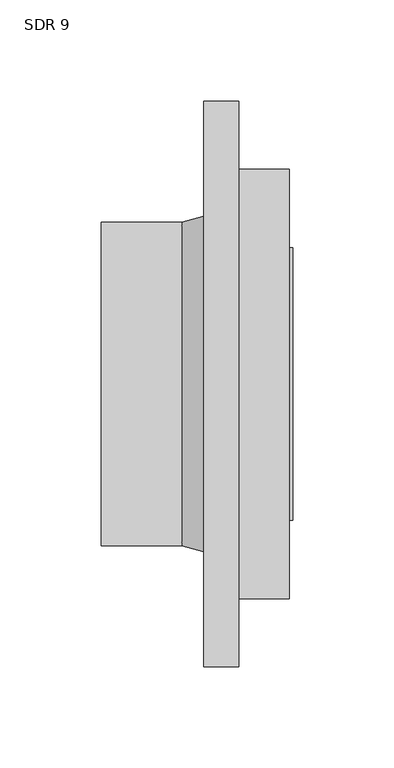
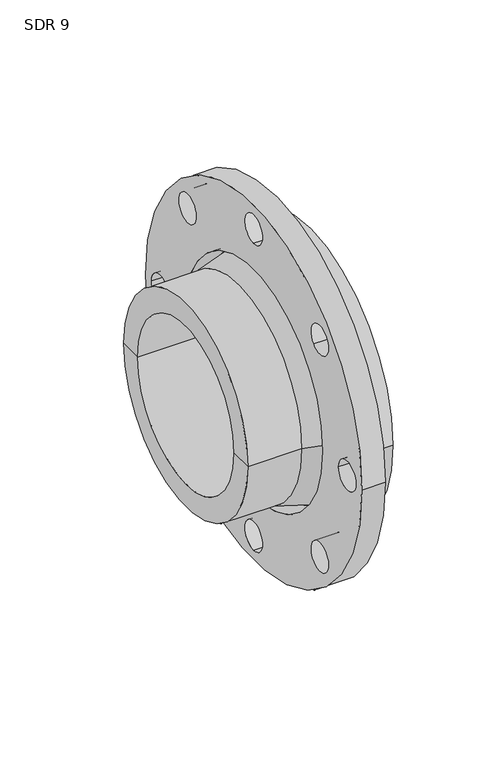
"""IFC4 building model written with IfcOpenShell, lengths in millimetres: valve geometry, Aquatherm - Flange Adapter Butt-Weld : SDR 9."""

from ifc_helpers import new_model, si_unit, point, frame, frame_2d, origin, origin_2d, place, context, project, spatial, polyline, circle_curve, trimmed, segment, composite_curve, outline, extrude, source, transform, mapped, element, save
from ifc_brep_helpers import plane_surface, cylinder_surface, revolved_surface, advanced_brep


def sdr_9_2074904a(model_context):
    return source(origin(), model_context, "Body", "SolidModel", [
        extrude(outline(composite_curve([segment(trimmed(circle_curve(origin_2d(), 139.7), [point((139.7, 0.0))], [point((-139.7, 0.0))], False, "CARTESIAN"), True, "CONTINUOUS"), segment(trimmed(circle_curve(origin_2d(), 139.7), [point((-139.7, 0.0))], [point((139.7, 0.0))], False, "CARTESIAN"), True, "CONTINUOUS")], self_intersect=False), holes=[composite_curve([segment(trimmed(circle_curve(origin_2d(), 88.9), [point((88.9, 0.0))], [point((-88.9, 0.0))], True, "CARTESIAN"), True, "CONTINUOUS"), segment(trimmed(circle_curve(origin_2d(), 88.9), [point((-88.9, 0.0))], [point((88.9, 0.0))], True, "CARTESIAN"), True, "CONTINUOUS")], self_intersect=False), composite_curve([segment(trimmed(circle_curve(frame_2d((-120.65, 0.0)), 11.176), [point((-109.474, 0.0))], [point((-131.826, 0.0))], True, "CARTESIAN"), True, "CONTINUOUS"), segment(trimmed(circle_curve(frame_2d((-120.65, 0.0)), 11.176), [point((-131.826, 0.0))], [point((-109.474, 0.0))], True, "CARTESIAN"), True, "CONTINUOUS")], self_intersect=False), composite_curve([segment(trimmed(circle_curve(frame_2d((-85.3124332, -85.3124332)), 11.176), [point((-77.4098078, -77.4098078))], [point((-93.2150585, -93.2150585))], True, "CARTESIAN"), True, "CONTINUOUS"), segment(trimmed(circle_curve(frame_2d((-85.3124332, -85.3124332)), 11.176), [point((-93.2150585, -93.2150585))], [point((-77.4098078, -77.4098078))], True, "CARTESIAN"), True, "CONTINUOUS")], self_intersect=False), composite_curve([segment(trimmed(circle_curve(frame_2d((-85.3124332, 85.3124332)), 11.176), [point((-77.4098078, 77.4098078))], [point((-93.2150585, 93.2150585))], True, "CARTESIAN"), True, "CONTINUOUS"), segment(trimmed(circle_curve(frame_2d((-85.3124332, 85.3124332)), 11.176), [point((-93.2150585, 93.2150585))], [point((-77.4098078, 77.4098078))], True, "CARTESIAN"), True, "CONTINUOUS")], self_intersect=False), composite_curve([segment(trimmed(circle_curve(frame_2d((0.0, 120.65)), 11.176), [point((0.0, 109.474))], [point((0.0, 131.826))], True, "CARTESIAN"), True, "CONTINUOUS"), segment(trimmed(circle_curve(frame_2d((0.0, 120.65)), 11.176), [point((0.0, 131.826))], [point((0.0, 109.474))], True, "CARTESIAN"), True, "CONTINUOUS")], self_intersect=False), composite_curve([segment(trimmed(circle_curve(frame_2d((85.3124332, 85.3124332)), 11.176), [point((77.4098078, 77.4098078))], [point((93.2150585, 93.2150585))], True, "CARTESIAN"), True, "CONTINUOUS"), segment(trimmed(circle_curve(frame_2d((85.3124332, 85.3124332)), 11.176), [point((93.2150585, 93.2150585))], [point((77.4098078, 77.4098078))], True, "CARTESIAN"), True, "CONTINUOUS")], self_intersect=False), composite_curve([segment(trimmed(circle_curve(frame_2d((120.65, 0.0)), 11.176), [point((109.474, 0.0))], [point((131.826, 0.0))], True, "CARTESIAN"), True, "CONTINUOUS"), segment(trimmed(circle_curve(frame_2d((120.65, 0.0)), 11.176), [point((131.826, 0.0))], [point((109.474, 0.0))], True, "CARTESIAN"), True, "CONTINUOUS")], self_intersect=False), composite_curve([segment(trimmed(circle_curve(frame_2d((85.3124332, -85.3124332)), 11.176), [point((77.4098078, -77.4098078))], [point((93.2150585, -93.2150585))], True, "CARTESIAN"), True, "CONTINUOUS"), segment(trimmed(circle_curve(frame_2d((85.3124332, -85.3124332)), 11.176), [point((93.2150585, -93.2150585))], [point((77.4098078, -77.4098078))], True, "CARTESIAN"), True, "CONTINUOUS")], self_intersect=False), composite_curve([segment(trimmed(circle_curve(frame_2d((0.0, -120.65)), 11.176), [point((0.0, -109.474))], [point((0.0, -131.826))], True, "CARTESIAN"), True, "CONTINUOUS"), segment(trimmed(circle_curve(frame_2d((0.0, -120.65)), 11.176), [point((0.0, -131.826))], [point((0.0, -109.474))], True, "CARTESIAN"), True, "CONTINUOUS")], self_intersect=False)]), frame((-17.526, 0.0, 0.0), z_axis=(1.0, 0.0, 0.0), x_axis=(0.0, 1.0, 0.0)), (0.0, 0.0, 1.0), 17.526),
        advanced_brep(
        [(24.892, -106.045, 0.0), (0.0, -106.045, 0.0), (0.0, 106.045, 0.0), (24.892, 106.045, 0.0), (26.4795, -62.23, 0.0), (26.4795, -67.31, 0.0), (26.4795, 67.31, 0.0), (26.4795, 62.23, 0.0), (-68.072, -62.23, 0.0), (-68.072, 62.23, 0.0), (-68.072, -80.01, 0.0), (-68.072, 80.01, 0.0), (-28.194, -80.01, 0.0), (-28.194, 80.01, 0.0), (0.0, -87.503, 0.0), (0.0, 87.503, 0.0), (24.892, -67.31, 0.0), (24.892, 67.31, 0.0)],
        [
            (0, 1),
            (1, 2, circle_curve(frame((0.0, 0.0, 0.0), z_axis=(1.0, 0.0, 0.0), x_axis=(0.0, 1.0, 0.0)), 106.045)),
            (2, 3),
            (3, 0, circle_curve(frame((24.892, 0.0, 0.0), z_axis=(-1.0, 0.0, 0.0), x_axis=(0.0, 1.0, 0.0)), 106.045)),
            (2, 1, circle_curve(frame((0.0, 0.0, 0.0), z_axis=(1.0, 0.0, 0.0), x_axis=(0.0, 1.0, 0.0)), 106.045)),
            (0, 3, circle_curve(frame((24.892, 0.0, 0.0), z_axis=(-1.0, 0.0, 0.0), x_axis=(0.0, 1.0, 0.0)), 106.045)),
            (4, 5),
            (5, 6, circle_curve(frame((26.4795, 0.0, 0.0), z_axis=(1.0, 0.0, 0.0), x_axis=(0.0, 1.0, 0.0)), 67.31)),
            (6, 7),
            (7, 4, circle_curve(frame((26.4795, 0.0, 0.0), z_axis=(-1.0, 0.0, 0.0), x_axis=(0.0, 1.0, 0.0)), 62.23)),
            (6, 5, circle_curve(frame((26.4795, 0.0, 0.0), z_axis=(1.0, 0.0, 0.0), x_axis=(0.0, 1.0, 0.0)), 67.31)),
            (4, 7, circle_curve(frame((26.4795, 0.0, 0.0), z_axis=(-1.0, 0.0, 0.0), x_axis=(0.0, 1.0, 0.0)), 62.23)),
            (8, 4),
            (7, 9),
            (9, 8, circle_curve(frame((-68.072, 0.0, 0.0), z_axis=(-1.0, 0.0, 0.0), x_axis=(0.0, 1.0, 0.0)), 62.23)),
            (8, 9, circle_curve(frame((-68.072, 0.0, 0.0), z_axis=(-1.0, 0.0, 0.0), x_axis=(0.0, 1.0, 0.0)), 62.23)),
            (10, 8),
            (9, 11),
            (11, 10, circle_curve(frame((-68.072, 0.0, 0.0), z_axis=(-1.0, 0.0, 0.0), x_axis=(0.0, 1.0, 0.0)), 80.01)),
            (10, 11, circle_curve(frame((-68.072, 0.0, 0.0), z_axis=(-1.0, 0.0, 0.0), x_axis=(0.0, 1.0, 0.0)), 80.01)),
            (12, 10),
            (11, 13),
            (13, 12, circle_curve(frame((-28.194, 0.0, 0.0), z_axis=(-1.0, 0.0, 0.0), x_axis=(0.0, 1.0, 0.0)), 80.01)),
            (12, 13, circle_curve(frame((-28.194, 0.0, 0.0), z_axis=(-1.0, 0.0, 0.0), x_axis=(0.0, 1.0, 0.0)), 80.01)),
            (1, 14),
            (14, 15, circle_curve(frame((0.0, 0.0, 0.0), z_axis=(1.0, 0.0, 0.0), x_axis=(0.0, 1.0, 0.0)), 87.503)),
            (15, 2),
            (15, 14, circle_curve(frame((0.0, 0.0, 0.0), z_axis=(1.0, 0.0, 0.0), x_axis=(0.0, 1.0, 0.0)), 87.503)),
            (16, 0),
            (3, 17),
            (17, 16, circle_curve(frame((24.892, 0.0, 0.0), z_axis=(-1.0, 0.0, 0.0), x_axis=(0.0, 1.0, 0.0)), 67.31)),
            (16, 17, circle_curve(frame((24.892, 0.0, 0.0), z_axis=(-1.0, 0.0, 0.0), x_axis=(0.0, 1.0, 0.0)), 67.31)),
            (5, 16),
            (17, 6),
            (14, 12),
            (13, 15),
        ],
        [
            cylinder_surface(frame((1465.5309321, 0.0, 0.0), z_axis=(1.0, 0.0, 0.0), x_axis=(0.0, 1.0, 0.0)), 106.045),
            plane_surface(frame((26.4795, 0.0, 0.0), z_axis=(1.0, 0.0, 0.0), x_axis=(0.0, 1.0, 0.0))),
            revolved_surface(polyline([(26.479499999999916, 62.23, 0.0), (-68.07200000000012, 62.23, 0.0)]), (1465.5309321, 0.0, 0.0), (1.0, 0.0, 0.0)),
            plane_surface(frame((-68.072, 0.0, 0.0), z_axis=(-1.0, 0.0, 0.0), x_axis=(0.0, 1.0, 0.0))),
            cylinder_surface(frame((1465.5309321, 0.0, 0.0), z_axis=(1.0, 0.0, 0.0), x_axis=(0.0, 1.0, 0.0)), 80.01),
            plane_surface(frame((0.0, 0.0, 0.0), z_axis=(-1.0, 0.0, 0.0), x_axis=(0.0, 1.0, 0.0))),
            plane_surface(frame((24.892, 0.0, 0.0), z_axis=(1.0, 0.0, 0.0), x_axis=(0.0, 1.0, 0.0))),
            cylinder_surface(frame((1465.5309321, 0.0, 0.0), z_axis=(1.0, 0.0, 0.0), x_axis=(0.0, 1.0, 0.0)), 67.31),
            revolved_surface(polyline([(-28.194, 80.01, 0.0), (0.0, 87.503, 0.0)]), (1465.5309321, 0.0, 0.0), (1.0, 0.0, 0.0)),
        ],
        [
            (0, [[1, 2, 3, 4]]),
            (0, [[-3, 5, -1, 6]]),
            (1, [[7, 8, 9, 10]]),
            (1, [[-9, 11, -7, 12]]),
            (2, [[13, -10, 14, 15]]),
            (2, [[-14, -12, -13, 16]]),
            (3, [[17, -15, 18, 19]]),
            (3, [[-18, -16, -17, 20]]),
            (4, [[21, -19, 22, 23]]),
            (4, [[-22, -20, -21, 24]]),
            (5, [[25, 26, 27, -2]]),
            (5, [[-27, 28, -25, -5]]),
            (6, [[29, -4, 30, 31]]),
            (6, [[-30, -6, -29, 32]]),
            (7, [[33, -31, 34, -8]]),
            (7, [[-34, -32, -33, -11]]),
            (8, [[35, -23, 36, -26]]),
            (8, [[-36, -24, -35, -28]]),
        ],
    ),
    ])


if __name__ == "__main__":
    model = new_model("IFC4")
    model_context = context("Model", 3, world=origin())
    ifc_project = project(units=[si_unit("LENGTHUNIT", "METRE", prefix="MILLI")], contexts=[model_context])
    site = spatial("IfcSite", under=ifc_project)
    building = spatial("IfcBuilding", under=site)
    placement = place(None, origin())
    sdr_9_shape = sdr_9_2074904a(model_context)
    element("IfcValve", 1, ObjectType="Aquatherm - Flange Adapter Butt-Weld : SDR 9", at=placement, inside=building, context=model_context, shape_type="MappedRepresentation", body=[
        mapped(sdr_9_shape, transform((0.0, 0.0, 0.0), x_axis=(1.0, 0.0, 0.0), y_axis=(0.0, 1.0, 0.0), z_axis=(0.0, 0.0, 1.0))),
    ])
    save(model, "model.ifc")
